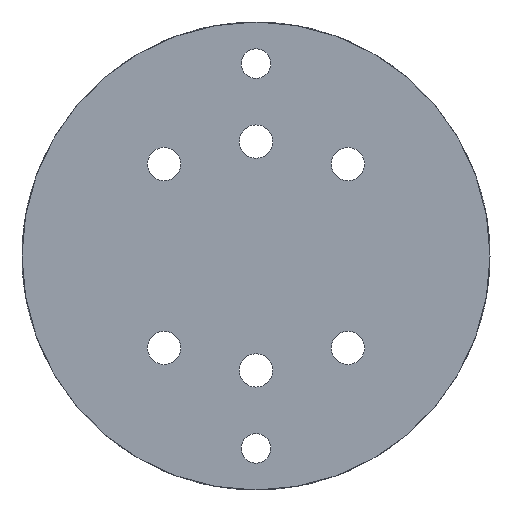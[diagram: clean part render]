
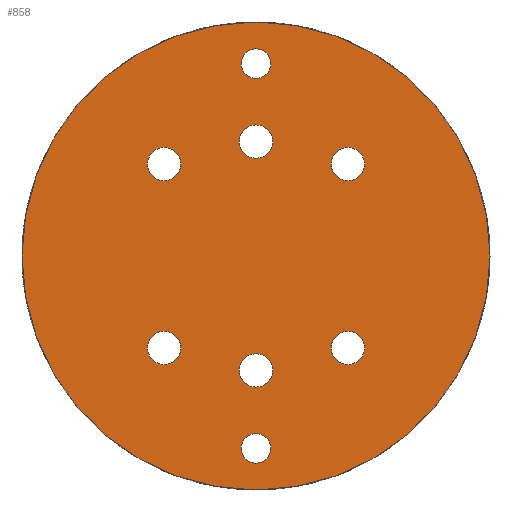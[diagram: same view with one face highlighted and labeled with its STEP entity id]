
A CAD part, left-side view. The second image highlights one B-rep face of the part: STEP entity #858.
In plain terms, the highlighted planar face has unit normal (-1, 0, 0).
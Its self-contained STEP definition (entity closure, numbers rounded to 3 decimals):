
#69=CIRCLE('',#937,22.5);
#79=CIRCLE('',#953,1.425);
#80=CIRCLE('',#955,1.425);
#81=CIRCLE('',#959,1.6);
#82=CIRCLE('',#960,1.6);
#83=CIRCLE('',#961,1.6);
#84=CIRCLE('',#962,1.6);
#85=CIRCLE('',#963,1.6);
#86=CIRCLE('',#964,1.6);
#117=FACE_BOUND('',#208,.T.);
#118=FACE_BOUND('',#209,.T.);
#119=FACE_BOUND('',#210,.T.);
#120=FACE_BOUND('',#211,.T.);
#121=FACE_BOUND('',#212,.T.);
#122=FACE_BOUND('',#213,.T.);
#123=FACE_BOUND('',#214,.T.);
#124=FACE_BOUND('',#215,.T.);
#148=FACE_OUTER_BOUND('',#207,.T.);
#207=EDGE_LOOP('',(#722));
#208=EDGE_LOOP('',(#723));
#209=EDGE_LOOP('',(#724));
#210=EDGE_LOOP('',(#725));
#211=EDGE_LOOP('',(#726));
#212=EDGE_LOOP('',(#727));
#213=EDGE_LOOP('',(#728));
#214=EDGE_LOOP('',(#729));
#215=EDGE_LOOP('',(#730));
#422=VERTEX_POINT('',#1463);
#433=VERTEX_POINT('',#1520);
#434=VERTEX_POINT('',#1524);
#435=VERTEX_POINT('',#1530);
#436=VERTEX_POINT('',#1532);
#437=VERTEX_POINT('',#1534);
#438=VERTEX_POINT('',#1536);
#439=VERTEX_POINT('',#1538);
#440=VERTEX_POINT('',#1540);
#517=EDGE_CURVE('',#422,#422,#69,.T.);
#537=EDGE_CURVE('',#433,#433,#79,.T.);
#539=EDGE_CURVE('',#434,#434,#80,.T.);
#540=EDGE_CURVE('',#435,#435,#81,.T.);
#541=EDGE_CURVE('',#436,#436,#82,.T.);
#542=EDGE_CURVE('',#437,#437,#83,.T.);
#543=EDGE_CURVE('',#438,#438,#84,.T.);
#544=EDGE_CURVE('',#439,#439,#85,.T.);
#545=EDGE_CURVE('',#440,#440,#86,.T.);
#722=ORIENTED_EDGE('',*,*,#517,.F.);
#723=ORIENTED_EDGE('',*,*,#537,.T.);
#724=ORIENTED_EDGE('',*,*,#539,.T.);
#725=ORIENTED_EDGE('',*,*,#540,.F.);
#726=ORIENTED_EDGE('',*,*,#541,.F.);
#727=ORIENTED_EDGE('',*,*,#542,.F.);
#728=ORIENTED_EDGE('',*,*,#543,.F.);
#729=ORIENTED_EDGE('',*,*,#544,.F.);
#730=ORIENTED_EDGE('',*,*,#545,.F.);
#826=PLANE('',#958);
#858=ADVANCED_FACE('',(#148,#117,#118,#119,#120,#121,#122,#123,#124),#826,
 .F.);
#937=AXIS2_PLACEMENT_3D('',#1465,#1128,#1129);
#953=AXIS2_PLACEMENT_3D('',#1522,#1168,#1169);
#955=AXIS2_PLACEMENT_3D('',#1526,#1173,#1174);
#958=AXIS2_PLACEMENT_3D('',#1529,#1179,#1180);
#959=AXIS2_PLACEMENT_3D('',#1531,#1181,#1182);
#960=AXIS2_PLACEMENT_3D('',#1533,#1183,#1184);
#961=AXIS2_PLACEMENT_3D('',#1535,#1185,#1186);
#962=AXIS2_PLACEMENT_3D('',#1537,#1187,#1188);
#963=AXIS2_PLACEMENT_3D('',#1539,#1189,#1190);
#964=AXIS2_PLACEMENT_3D('',#1541,#1191,#1192);
#1128=DIRECTION('center_axis',(1.,0.,0.));
#1129=DIRECTION('ref_axis',(0.,1.,0.));
#1168=DIRECTION('center_axis',(1.,0.,0.));
#1169=DIRECTION('ref_axis',(0.,1.,0.));
#1173=DIRECTION('center_axis',(1.,0.,0.));
#1174=DIRECTION('ref_axis',(0.,1.,0.));
#1179=DIRECTION('center_axis',(1.,0.,0.));
#1180=DIRECTION('ref_axis',(0.,1.,0.));
#1181=DIRECTION('center_axis',(-1.,0.,0.));
#1182=DIRECTION('ref_axis',(0.,1.,0.));
#1183=DIRECTION('center_axis',(-1.,0.,0.));
#1184=DIRECTION('ref_axis',(0.,1.,0.));
#1185=DIRECTION('center_axis',(-1.,0.,0.));
#1186=DIRECTION('ref_axis',(0.,1.,0.));
#1187=DIRECTION('center_axis',(-1.,0.,0.));
#1188=DIRECTION('ref_axis',(0.,1.,0.));
#1189=DIRECTION('center_axis',(-1.,0.,0.));
#1190=DIRECTION('ref_axis',(0.,1.,0.));
#1191=DIRECTION('center_axis',(-1.,0.,0.));
#1192=DIRECTION('ref_axis',(0.,1.,0.));
#1463=CARTESIAN_POINT('',(2.67,-22.5,87.17));
#1465=CARTESIAN_POINT('Origin',(2.67,0.,
87.17));
#1520=CARTESIAN_POINT('',(2.67,-1.425,105.67));
#1522=CARTESIAN_POINT('Origin',(2.67,0.,105.67));
#1524=CARTESIAN_POINT('',(2.67,-1.425,68.67));
#1526=CARTESIAN_POINT('Origin',(2.67,0.,68.67));
#1529=CARTESIAN_POINT('Origin',(2.67,0.,
87.17));
#1530=CARTESIAN_POINT('',(2.67,7.239,96.009));
#1531=CARTESIAN_POINT('Origin',(2.67,8.839,96.009));
#1532=CARTESIAN_POINT('',(2.67,-1.6,98.17));
#1533=CARTESIAN_POINT('Origin',(2.67,0.,98.17));
#1534=CARTESIAN_POINT('',(2.67,-10.439,96.009));
#1535=CARTESIAN_POINT('Origin',(2.67,-8.839,96.009));
#1536=CARTESIAN_POINT('',(2.67,-10.439,78.331));
#1537=CARTESIAN_POINT('Origin',(2.67,-8.839,78.331));
#1538=CARTESIAN_POINT('',(2.67,7.239,78.331));
#1539=CARTESIAN_POINT('Origin',(2.67,8.839,78.331));
#1540=CARTESIAN_POINT('',(2.67,-1.6,76.17));
#1541=CARTESIAN_POINT('Origin',(2.67,0.,
76.17));
